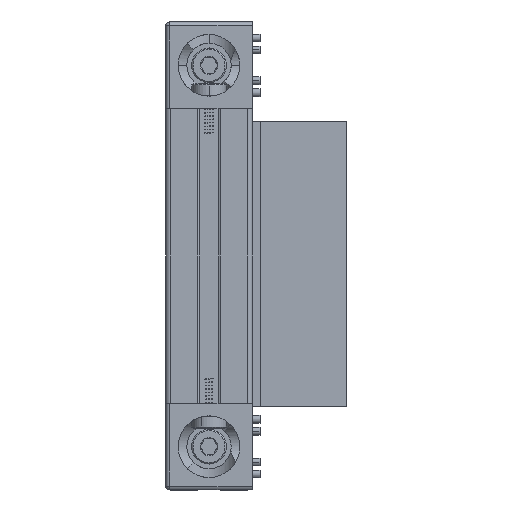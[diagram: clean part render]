
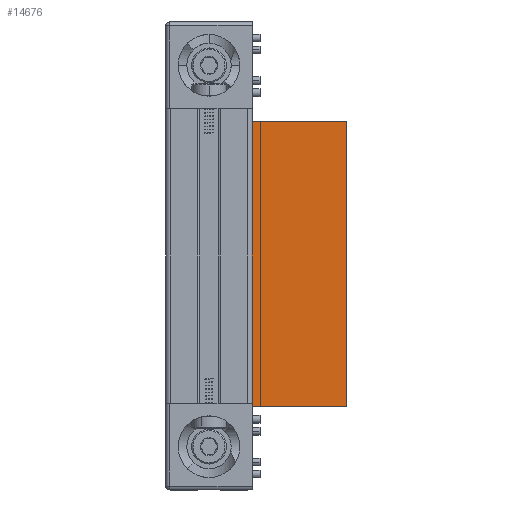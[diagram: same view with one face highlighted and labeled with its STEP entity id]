
A CAD part, left-side view. The second image highlights one B-rep face of the part: STEP entity #14676.
In plain terms, the highlighted planar face has unit normal (-1, 0, 0) as drawn and (0, 0, 1) by its records, which use the part's own axes.
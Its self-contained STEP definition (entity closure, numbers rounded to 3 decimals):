
#1156 = LINE ( 'NONE', #7815, #44538 ) ;
#2097 = EDGE_CURVE ( 'NONE', #53604, #30627, #39369, .T. ) ;
#2368 = CARTESIAN_POINT ( 'NONE',  ( -74., 0., 69.85 ) ) ;
#3916 = DIRECTION ( 'NONE',  ( 0., 1., 0. ) ) ;
#4237 = ORIENTED_EDGE ( 'NONE', *, *, #17867, .F. ) ;
#6027 = ORIENTED_EDGE ( 'NONE', *, *, #18274, .T. ) ;
#7812 = CARTESIAN_POINT ( 'NONE',  ( -74., 50.8, 69.85 ) ) ;
#7815 = CARTESIAN_POINT ( 'NONE',  ( -74., 0., 69.85 ) ) ;
#14676 = ADVANCED_FACE ( 'NONE', ( #17151 ), #41404, .T. ) ;
#16328 = CARTESIAN_POINT ( 'NONE',  ( 74., 0., 69.85 ) ) ;
#16350 = CARTESIAN_POINT ( 'NONE',  ( 74., 50.8, 69.85 ) ) ;
#17151 = FACE_OUTER_BOUND ( 'NONE', #53743, .T. ) ;
#17867 = EDGE_CURVE ( 'NONE', #44213, #53604, #1156, .T. ) ;
#18274 = EDGE_CURVE ( 'NONE', #46812, #30627, #43850, .T. ) ;
#19086 = AXIS2_PLACEMENT_3D ( 'NONE', #45636, #49902, #24694 ) ;
#23008 = CARTESIAN_POINT ( 'NONE',  ( -74., 0., 69.85 ) ) ;
#24694 = DIRECTION ( 'NONE',  ( 1., 0., 0. ) ) ;
#27257 = DIRECTION ( 'NONE',  ( 1., 0., 0. ) ) ;
#29720 = CARTESIAN_POINT ( 'NONE',  ( -74., 50.8, 69.85 ) ) ;
#30627 = VERTEX_POINT ( 'NONE', #16350 ) ;
#33980 = DIRECTION ( 'NONE',  ( 1., 0., 0. ) ) ;
#34598 = ORIENTED_EDGE ( 'NONE', *, *, #48297, .T. ) ;
#36404 = VECTOR ( 'NONE', #27257, 1000. ) ;
#39369 = LINE ( 'NONE', #29720, #49249 ) ;
#41404 = PLANE ( 'NONE',  #19086 ) ;
#42518 = VECTOR ( 'NONE', #3916, 1000. ) ;
#43850 = LINE ( 'NONE', #16328, #42518 ) ;
#44213 = VERTEX_POINT ( 'NONE', #2368 ) ;
#44538 = VECTOR ( 'NONE', #49923, 1000. ) ;
#45636 = CARTESIAN_POINT ( 'NONE',  ( -74., 0., 69.85 ) ) ;
#46812 = VERTEX_POINT ( 'NONE', #48046 ) ;
#47583 = LINE ( 'NONE', #23008, #36404 ) ;
#48046 = CARTESIAN_POINT ( 'NONE',  ( 74., 0., 69.85 ) ) ;
#48297 = EDGE_CURVE ( 'NONE', #44213, #46812, #47583, .T. ) ;
#48310 = ORIENTED_EDGE ( 'NONE', *, *, #2097, .F. ) ;
#49249 = VECTOR ( 'NONE', #33980, 1000. ) ;
#49902 = DIRECTION ( 'NONE',  ( 0., 0., 1. ) ) ;
#49923 = DIRECTION ( 'NONE',  ( 0., 1., 0. ) ) ;
#53604 = VERTEX_POINT ( 'NONE', #7812 ) ;
#53743 = EDGE_LOOP ( 'NONE', ( #48310, #4237, #34598, #6027 ) ) ;
